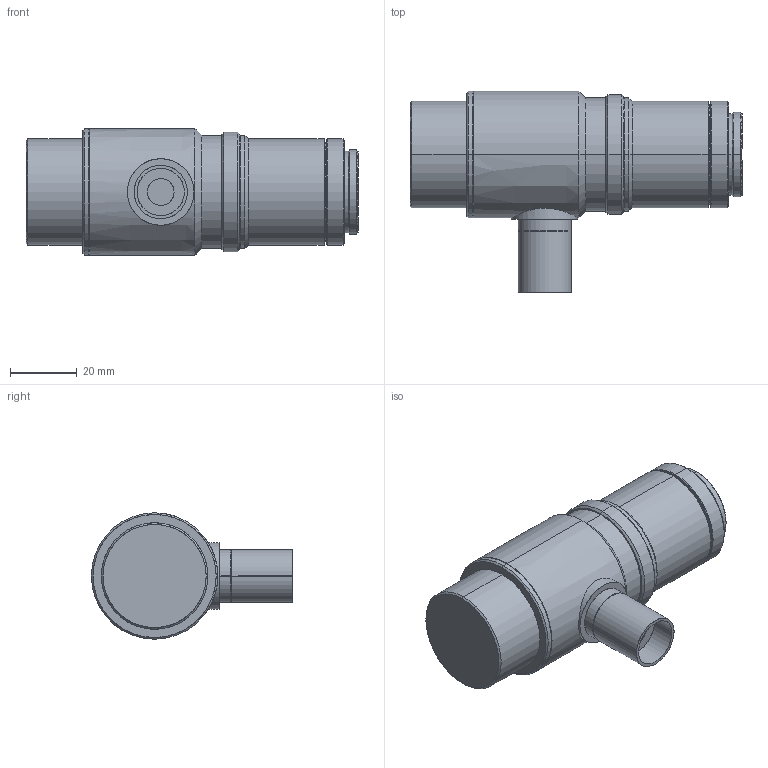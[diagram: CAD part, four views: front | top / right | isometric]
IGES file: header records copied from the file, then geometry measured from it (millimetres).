
Start section: SolidWorks IGES file using analytic representation for surfaces
Bounding box: 99.8 x 60.5 x 38 mm (x, y, z)
Surface area: 14906.6 mm2 (no closed solid volume)
Topology: 0 solids, 0 shells, 78 faces, 1406 edges, 1406 vertices
Faces by surface type: revolution 66, bspline 12
